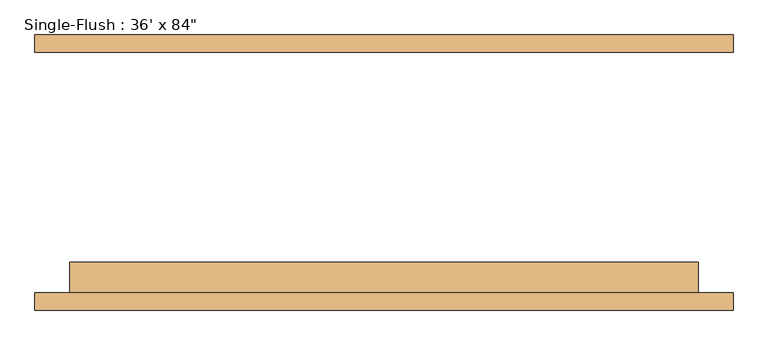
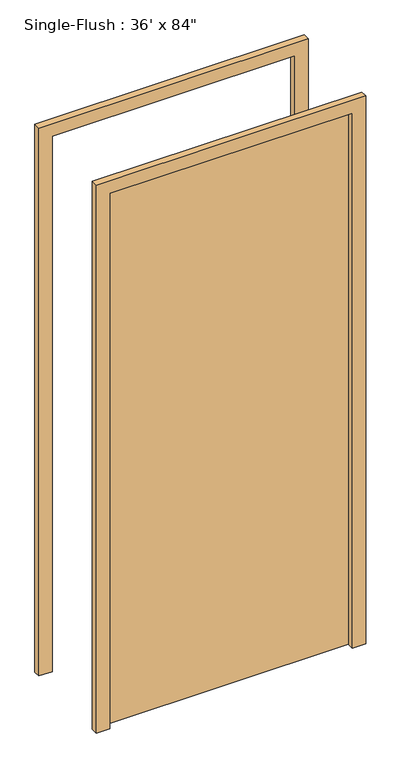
"""IFC4 building model written with IfcOpenShell, lengths in millimetres: door geometry."""

from ifc_helpers import new_model, si_unit, frame, origin, origin_with_axes, place, context, project, spatial, polyline, outline, extrude, source, transform, mapped, element, save


def door_6897db11(model_context):
    return source(origin(), model_context, "Body", "SweptSolid", [
        extrude(outline(polyline([(2184.4, -508.0), (0.0, -508.0), (0.0, -457.2), (2133.6, -457.2), (2133.6, 457.2), (0.0, 457.2), (0.0, 508.0), (2184.4, 508.0), (2184.4, -508.0)])), frame((0.0, -200.4, 0.0), z_axis=(0.0, 1.0, 0.0), x_axis=(0.0, 0.0, 1.0)), (0.0, 0.0, 1.0), 25.4),
        extrude(outline(polyline([(2184.4, 508.0), (2184.4, -508.0), (0.0, -508.0), (0.0, -457.2), (2133.6, -457.2), (2133.6, 457.2), (0.0, 457.2), (0.0, 508.0), (2184.4, 508.0)])), frame((0.0, 175.0, 0.0), z_axis=(0.0, 1.0, 0.0), x_axis=(0.0, 0.0, 1.0)), (0.0, 0.0, 1.0), 25.4),
        extrude(outline(polyline([(457.2, -130.55), (457.2, -175.0), (-457.2, -175.0), (-457.2, -130.55), (457.2, -130.55)])), origin_with_axes(), (0.0, 0.0, 1.0), 2133.6),
    ])


if __name__ == "__main__":
    model = new_model("IFC4")
    model_context = context("Model", 3, world=origin())
    ifc_project = project(units=[si_unit("LENGTHUNIT", "METRE", prefix="MILLI")], contexts=[model_context])
    site = spatial("IfcSite", under=ifc_project)
    building = spatial("IfcBuilding", under=site)
    placement = place(None, origin())
    door_shape = door_6897db11(model_context)
    element("IfcDoor", 1, ObjectType="Single-Flush : 36' x 84\"", at=placement, inside=building, context=model_context, shape_type="MappedRepresentation", body=[
        mapped(door_shape, transform((0.0, 0.0, 0.0), x_axis=(1.0, 0.0, 0.0), y_axis=(0.0, 1.0, 0.0), z_axis=(0.0, 0.0, 1.0))),
    ])
    save(model, "model.ifc")
